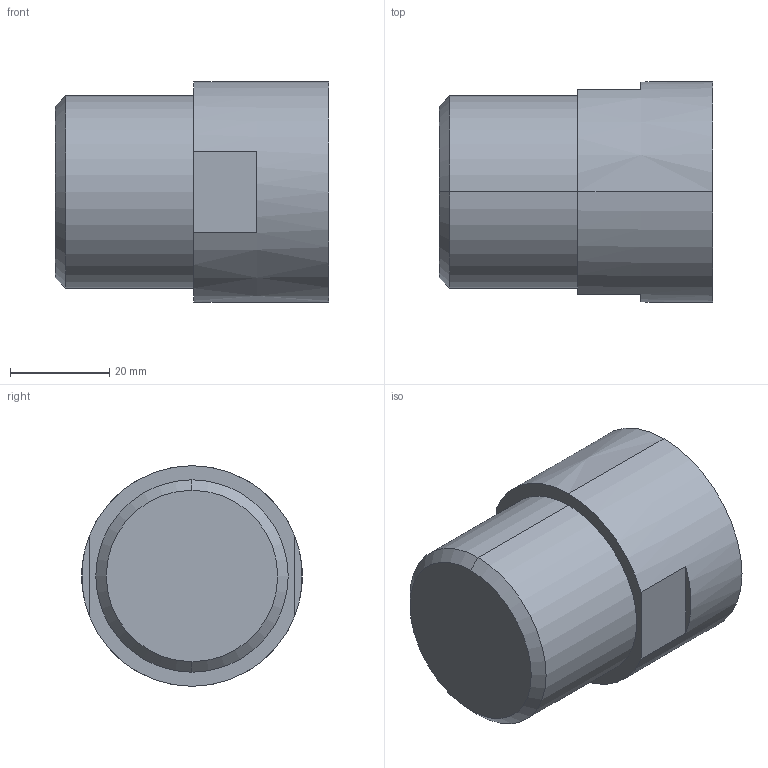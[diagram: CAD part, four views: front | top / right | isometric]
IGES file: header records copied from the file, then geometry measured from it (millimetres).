
Start section: SolidWorks IGES file using analytic representation for surfaces
Global section: file name: S:\Product Visuals\Pumps to be Defeatured\140 fittings\FITTING ASSEMBLIES\DEFEATURED\16-fnpt.IGS; native system: SolidWorks 2012; preprocessor: SolidWorks 2012; author: rachel.dressel; date: 121203.093126; units: inch
Bounding box: 55.12 x 44.45 x 44.45 mm (x, y, z)
Volume: 61757.9 mm3; surface area: 11808.6 mm2
Topology: 1 solids, 1 shells, 18 faces, 38 edges, 24 vertices
Faces by surface type: revolution 10, plane 8
